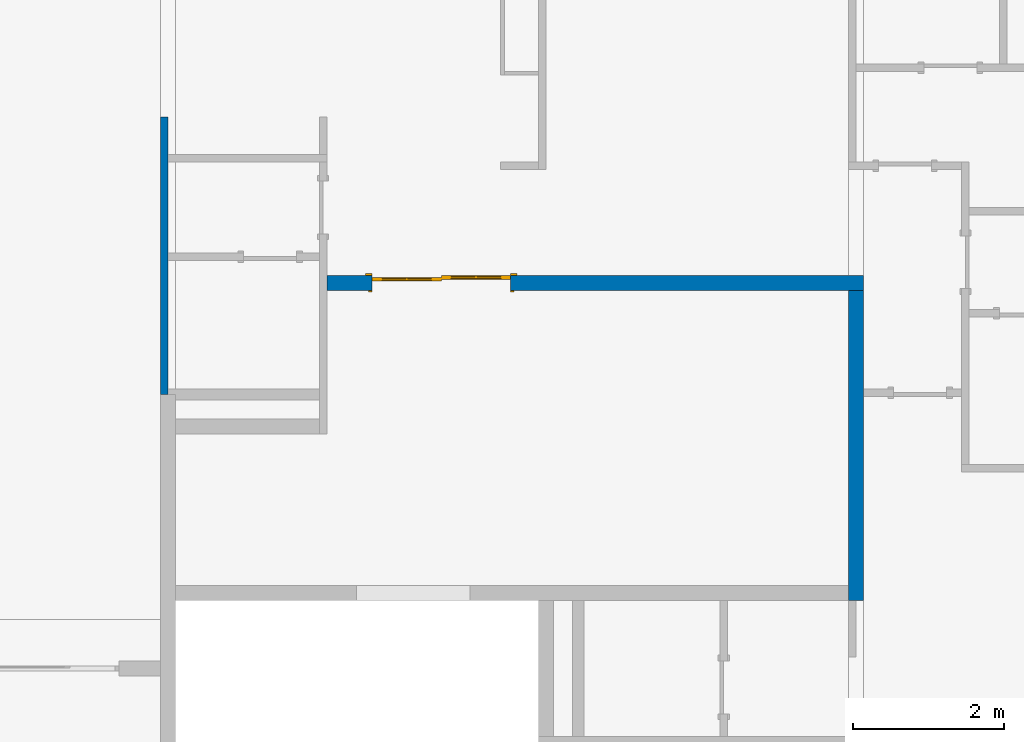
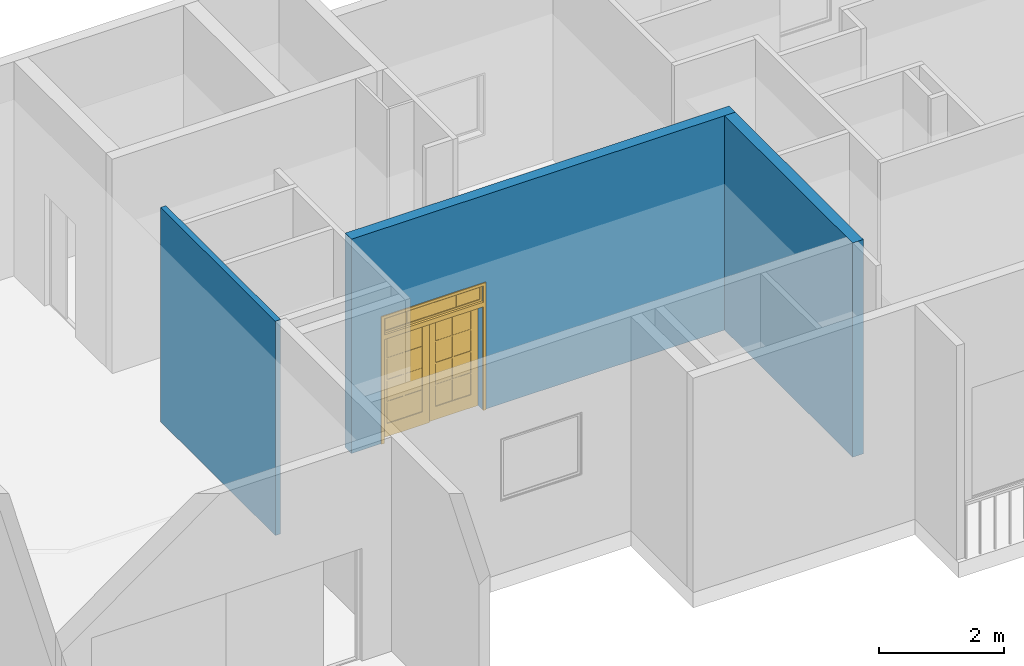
# One storey, part 2 of 7: 3 walls, 1 door, 1 opening.
"""IFC2X3 building model written with IfcOpenShell, lengths in metres."""

from ifc_helpers import new_model, entity, si_unit, converted_unit, derived_unit, direction, frame, frame_2d, origin, place, context, subcontext, project, spatial, rectangle, extrude, faceted_brep, source, transform, mapped, material, material_list, layer, layer_set, layer_usage, type_object, type_shapes, element, fill, save


model = new_model("IFC2X3")

# Units and contexts
model_context = context("Model", 3, precision=1e-05, world=origin(), true_north=direction((6.123031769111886e-17, 1.0)))
body_context = subcontext(model_context, "Body", "Model", "MODEL_VIEW")
ifc_project = project(units=[si_unit("LENGTHUNIT", "METRE"), si_unit("AREAUNIT", "SQUARE_METRE"), si_unit("VOLUMEUNIT", "CUBIC_METRE"), converted_unit("PLANEANGLEUNIT", "DEGREE", entity("IfcRatioMeasure", 0.017453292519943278), si_unit("PLANEANGLEUNIT", "RADIAN"), dimensions=[0, 0, 0, 0, 0, 0, 0]), si_unit("MASSUNIT", "GRAM", prefix="KILO"), derived_unit("MASSDENSITYUNIT", [(si_unit("MASSUNIT", "GRAM", prefix="KILO"), 1), (si_unit("LENGTHUNIT", "METRE"), -3)]), derived_unit("MOMENTOFINERTIAUNIT", [(si_unit("LENGTHUNIT", "METRE"), 4)]), si_unit("TIMEUNIT", "SECOND"), si_unit("FREQUENCYUNIT", "HERTZ"), si_unit("THERMODYNAMICTEMPERATUREUNIT", "DEGREE_CELSIUS"), derived_unit("THERMALTRANSMITTANCEUNIT", [(si_unit("MASSUNIT", "GRAM", prefix="KILO"), 1), (si_unit("THERMODYNAMICTEMPERATUREUNIT", "KELVIN"), -1), (si_unit("TIMEUNIT", "SECOND"), -3)]), derived_unit("VOLUMETRICFLOWRATEUNIT", [(si_unit("LENGTHUNIT", "METRE"), 3), (si_unit("TIMEUNIT", "SECOND"), -1)]), derived_unit("MASSFLOWRATEUNIT", [(si_unit("MASSUNIT", "GRAM", prefix="KILO"), 1), (si_unit("TIMEUNIT", "SECOND"), -1)]), derived_unit("ROTATIONALFREQUENCYUNIT", [(si_unit("TIMEUNIT", "SECOND"), -1)]), si_unit("ELECTRICCURRENTUNIT", "AMPERE"), si_unit("ELECTRICVOLTAGEUNIT", "VOLT"), si_unit("POWERUNIT", "WATT"), si_unit("FORCEUNIT", "NEWTON", prefix="KILO"), si_unit("ILLUMINANCEUNIT", "LUX"), si_unit("LUMINOUSFLUXUNIT", "LUMEN"), si_unit("LUMINOUSINTENSITYUNIT", "CANDELA"), derived_unit("USERDEFINED", [(si_unit("MASSUNIT", "GRAM", prefix="KILO"), -1), (si_unit("LENGTHUNIT", "METRE"), -2), (si_unit("TIMEUNIT", "SECOND"), 3), (si_unit("LUMINOUSFLUXUNIT", "LUMEN"), 1)]), derived_unit("SOUNDPOWERUNIT", [(si_unit("MASSUNIT", "GRAM", prefix="KILO"), 1), (si_unit("LENGTHUNIT", "METRE"), 2), (si_unit("TIMEUNIT", "SECOND"), -3)]), derived_unit("SOUNDPRESSUREUNIT", [(si_unit("MASSUNIT", "GRAM", prefix="KILO"), 1), (si_unit("LENGTHUNIT", "METRE"), -1), (si_unit("TIMEUNIT", "SECOND"), -2)]), derived_unit("LINEARVELOCITYUNIT", [(si_unit("LENGTHUNIT", "METRE"), 1), (si_unit("TIMEUNIT", "SECOND"), -1)]), si_unit("PRESSUREUNIT", "PASCAL"), derived_unit("USERDEFINED", [(si_unit("LENGTHUNIT", "METRE"), -2), (si_unit("MASSUNIT", "GRAM", prefix="KILO"), 1), (si_unit("TIMEUNIT", "SECOND"), -2)]), derived_unit("LINEARFORCEUNIT", [(si_unit("MASSUNIT", "GRAM", prefix="KILO"), 1), (si_unit("LENGTHUNIT", "METRE"), 1), (si_unit("TIMEUNIT", "SECOND"), -2), (si_unit("LENGTHUNIT", "METRE"), -1)]), derived_unit("PLANARFORCEUNIT", [(si_unit("MASSUNIT", "GRAM", prefix="KILO"), 1), (si_unit("LENGTHUNIT", "METRE"), 1), (si_unit("TIMEUNIT", "SECOND"), -2), (si_unit("LENGTHUNIT", "METRE"), -2)])], contexts=[model_context])

# Site, building, storey
site_placement = place(None, origin())
site = spatial("IfcSite", under=ifc_project, at=site_placement, Name="Default", CompositionType="ELEMENT")
building_placement = place(site_placement, origin())
building = spatial("IfcBuilding", under=site, at=building_placement, CompositionType="ELEMENT")
storey_placement = place(building_placement, frame((0.0, 0.0, 5.639999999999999)))
storey = spatial("IfcBuildingStorey", under=building, at=storey_placement, Name="F1", CompositionType="ELEMENT", Elevation=5.639999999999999)

# Wall, opening, door
ifc_material_1 = material(Name="Masonry - Concrete Block")
ifc_layer_1 = layer(ifc_material_1, 0.2)
ifc_layer_set_1 = layer_set([ifc_layer_1], Name="Basic Wall:CW 200")
ifc_layer_usage_1 = layer_usage(ifc_layer_set_1, "AXIS2", "NEGATIVE", 0.1)
wall_type_1 = type_object("IfcWallType", Name="Basic Wall:CW 200", PredefinedType="STANDARD", material=ifc_layer_set_1)
wall_1_placement = place(storey_placement, frame((15.10768321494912, -1.0973929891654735, 0.0)))
wall_1 = element("IfcWallStandardCase", 1, at=wall_1_placement, inside=storey, type_object=wall_type_1, material=ifc_layer_usage_1, Name="Basic Wall:CW 200", ObjectType="Basic Wall:CW 200", context=body_context, shape_type="SweptSolid", body=[
    extrude(rectangle(XDim=7.10000000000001, YDim=0.2, at=frame_2d((3.550000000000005, 4.85722573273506e-17), x_axis=(1.0, 0.0))), origin(), (0.0, 0.0, 1.0), 4.19),
])
opening_placement = place(wall_1_placement, frame((0.6000000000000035, -0.09999999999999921, 0.0)))
opening = element("IfcOpeningElement", 2, at=opening_placement, cuts=wall_1, Name="Double_8_lite_patio_door_5282:36x2\" x 80\" w/transom\":1", ObjectType="Opening", context=body_context, shape_type="SweptSolid", body=[
    extrude(rectangle(XDim=1.8287999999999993, YDim=2.4384000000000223, at=frame_2d((1.2192000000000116, 0.9144000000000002), x_axis=(0.0, -1.0))), frame((0.0, 0.0, 0.0), z_axis=(0.0, 1.0, 0.0), x_axis=(0.0, 0.0, 1.0)), (0.0, 0.0, 1.0), 0.2),
])
ifc_material_2 = material(Name="<Unnamed>")
ifc_material_3 = material(Name="Door - Panel")
ifc_material_4 = material(Name="Glazing - Window Glazing")
ifc_material_5 = material(Name="Finishes - Exterior - Trim")
ifc_material_6 = material(Name="Finishes - Interior - Trim")
ifc_material_list_1 = material_list([ifc_material_2, ifc_material_3, ifc_material_4, ifc_material_5, ifc_material_6])
ifc_material_list_2 = material_list([ifc_material_2, ifc_material_3, ifc_material_3, ifc_material_4, ifc_material_3, ifc_material_3, ifc_material_3, ifc_material_4, ifc_material_3, ifc_material_5, ifc_material_4, ifc_material_3, ifc_material_3, ifc_material_5, ifc_material_5, ifc_material_5, ifc_material_6])
door_style = type_object("IfcDoorStyle", Name="Double_8_lite_patio_door_5282:36x2\" x 80\" w/transom\"", ConstructionType="NOTDEFINED", OperationType="NOTDEFINED", ParameterTakesPrecedence=False, Sizeable=False, material=ifc_material_list_2)
shared_shape = source(origin(), body_context, "Body", "Brep", [
    faceted_brep([(1.8288000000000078, 0.2000000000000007, 2.0319999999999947), (1.8288000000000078, 0.0, 2.0319999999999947), (0.0, 0.0, 2.0319999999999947), (0.0, 0.2000000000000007, 2.0319999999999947), (1.8288000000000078, 0.2000000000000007, 2.120899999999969), (0.0, 0.2000000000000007, 2.120899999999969), (0.0, 0.0, 2.120899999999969), (1.8288000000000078, 0.0, 2.120899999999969)], [[[0, 1, 2, 3]], [[4, 5, 6, 7]], [[1, 0, 4, 7]], [[2, 1, 7, 6]], [[3, 2, 6, 5]], [[0, 3, 5, 4]]]),
    faceted_brep([(1.3842999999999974, 0.16667500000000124, 2.1589999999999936), (1.3588999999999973, 0.16667500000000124, 2.1589999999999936), (1.3588999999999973, 0.16667500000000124, 2.40030000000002), (1.3842999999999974, 0.16667500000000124, 2.40030000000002), (1.3842999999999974, 0.1349250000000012, 2.1589999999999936), (1.3842999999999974, 0.1349250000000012, 2.40030000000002), (1.3588999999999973, 0.1349250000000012, 2.40030000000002), (1.3588999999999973, 0.1349250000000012, 2.1589999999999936)], [[[0, 1, 2, 3]], [[4, 5, 6, 7]], [[1, 0, 4, 7]], [[2, 1, 7, 6]], [[3, 2, 6, 5]], [[0, 3, 5, 4]]]),
    faceted_brep([(0.46990000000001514, 0.16667500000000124, 2.15899999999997), (0.4445000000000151, 0.16667500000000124, 2.15899999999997), (0.4445000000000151, 0.16667500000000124, 2.4002999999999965), (0.46990000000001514, 0.16667500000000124, 2.4002999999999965), (0.46990000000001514, 0.1349250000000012, 2.15899999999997), (0.46990000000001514, 0.1349250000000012, 2.4002999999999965), (0.4445000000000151, 0.1349250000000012, 2.4002999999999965), (0.4445000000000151, 0.1349250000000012, 2.15899999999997)], [[[0, 1, 2, 3]], [[4, 5, 6, 7]], [[1, 0, 4, 7]], [[2, 1, 7, 6]], [[3, 2, 6, 5]], [[0, 3, 5, 4]]]),
    faceted_brep([(1.0159999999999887, 0.05872499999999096, 1.93040000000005), (1.7525999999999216, 0.05872499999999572, 1.93040000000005), (1.7525999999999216, 0.05872499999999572, 0.2540000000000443), (1.0160000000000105, 0.05872499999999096, 0.25400000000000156), (1.015999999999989, 0.03967499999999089, 1.93040000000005), (1.0160000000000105, 0.03967499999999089, 0.25400000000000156), (1.7525999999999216, 0.03967499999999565, 0.2540000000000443), (1.7525999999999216, 0.03967499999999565, 1.93040000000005)], [[[0, 1, 2, 3]], [[4, 5, 6, 7]], [[1, 0, 4, 7]], [[2, 1, 7, 6]], [[3, 2, 6, 5]], [[0, 3, 5, 4]]]),
    faceted_brep([(1.3842999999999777, 0.06507499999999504, 0.6794500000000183), (1.7017999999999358, 0.06507499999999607, 0.6794500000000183), (1.7017999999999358, 0.06507499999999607, 0.6540500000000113), (1.3842999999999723, 0.06507499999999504, 0.6540500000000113), (1.3842999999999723, 0.06507499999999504, 0.25400000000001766), (1.3588999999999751, 0.06507499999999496, 0.25400000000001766), (1.3588999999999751, 0.06507499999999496, 0.6540500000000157), (1.0414000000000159, 0.06507499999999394, 0.6540499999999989), (1.0414000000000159, 0.06507499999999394, 0.6794500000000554), (1.3588999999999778, 0.06507499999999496, 0.6794500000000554), (1.3588999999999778, 0.06507499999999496, 1.0795000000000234), (1.0414000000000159, 0.06507499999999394, 1.0795000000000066), (1.0414000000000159, 0.06507499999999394, 1.1049000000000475), (1.3588999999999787, 0.06507499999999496, 1.1049000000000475), (1.3588999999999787, 0.06507499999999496, 1.5049500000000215), (1.0414000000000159, 0.06507499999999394, 1.5049500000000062), (1.0414000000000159, 0.06507499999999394, 1.5303500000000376), (1.3588999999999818, 0.06507499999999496, 1.5303500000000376), (1.3588999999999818, 0.06507499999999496, 1.9304000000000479), (1.384299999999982, 0.06507499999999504, 1.9304000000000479), (1.384299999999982, 0.06507499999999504, 1.5303500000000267), (1.7017999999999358, 0.06507499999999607, 1.5303500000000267), (1.7017999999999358, 0.06507499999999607, 1.5049500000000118), (1.3842999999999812, 0.06507499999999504, 1.5049500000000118), (1.3842999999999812, 0.06507499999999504, 1.1049000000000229), (1.7017999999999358, 0.06507499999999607, 1.1049000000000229), (1.7017999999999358, 0.06507499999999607, 1.0795000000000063), (1.3842999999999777, 0.06507499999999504, 1.0795000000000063), (1.3842999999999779, 0.03332499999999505, 0.6794500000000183), (1.3842999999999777, 0.03332499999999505, 1.0795000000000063), (1.701799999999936, 0.03332499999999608, 1.0795000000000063), (1.701799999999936, 0.03332499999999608, 1.1049000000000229), (1.3842999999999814, 0.03332499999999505, 1.1049000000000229), (1.3842999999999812, 0.03332499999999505, 1.5049500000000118), (1.701799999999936, 0.03332499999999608, 1.5049500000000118), (1.701799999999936, 0.03332499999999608, 1.5303500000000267), (1.384299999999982, 0.03332499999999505, 1.5303500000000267), (1.384299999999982, 0.03332499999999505, 1.9304000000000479), (1.358899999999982, 0.03332499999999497, 1.9304000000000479), (1.358899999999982, 0.03332499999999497, 1.5303500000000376), (1.0414000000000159, 0.033324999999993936, 1.5303500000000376), (1.0414000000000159, 0.033324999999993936, 1.5049500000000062), (1.3588999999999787, 0.03332499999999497, 1.5049500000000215), (1.3588999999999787, 0.03332499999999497, 1.1049000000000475), (1.0414000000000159, 0.033324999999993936, 1.1049000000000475), (1.0414000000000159, 0.033324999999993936, 1.0795000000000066), (1.358899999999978, 0.03332499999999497, 1.0795000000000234), (1.358899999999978, 0.03332499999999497, 0.6794500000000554), (1.0414000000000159, 0.033324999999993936, 0.6794500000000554), (1.0414000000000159, 0.033324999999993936, 0.6540499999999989), (1.3588999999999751, 0.03332499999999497, 0.6540500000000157), (1.3588999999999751, 0.03332499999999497, 0.25400000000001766), (1.3842999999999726, 0.03332499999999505, 0.25400000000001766), (1.3842999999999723, 0.03332499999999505, 0.6540500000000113), (1.701799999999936, 0.03332499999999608, 0.6540500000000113), (1.701799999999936, 0.03332499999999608, 0.6794500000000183)], [[[0, 1, 2, 3, 4, 5, 6, 7, 8, 9, 10, 11, 12, 13, 14, 15, 16, 17, 18, 19, 20, 21, 22, 23, 24, 25, 26, 27]], [[28, 29, 30, 31, 32, 33, 34, 35, 36, 37, 38, 39, 40, 41, 42, 43, 44, 45, 46, 47, 48, 49, 50, 51, 52, 53, 54, 55]], [[1, 0, 28, 55]], [[2, 1, 55, 54]], [[3, 2, 54, 53]], [[4, 3, 53, 52]], [[5, 4, 52, 51]], [[6, 5, 51, 50]], [[7, 6, 50, 49]], [[8, 7, 49, 48]], [[9, 8, 48, 47]], [[10, 9, 47, 46]], [[11, 10, 46, 45]], [[12, 11, 45, 44]], [[13, 12, 44, 43]], [[14, 13, 43, 42]], [[15, 14, 42, 41]], [[16, 15, 41, 40]], [[17, 16, 40, 39]], [[18, 17, 39, 38]], [[19, 18, 38, 37]], [[20, 19, 37, 36]], [[21, 20, 36, 35]], [[22, 21, 35, 34]], [[23, 22, 34, 33]], [[24, 23, 33, 32]], [[25, 24, 32, 31]], [[26, 25, 31, 30]], [[27, 26, 30, 29]], [[0, 27, 29, 28]]]),
    faceted_brep([(0.9144000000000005, 0.07459999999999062, 2.032000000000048), (1.828800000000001, 0.07459999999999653, 2.032000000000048), (1.828800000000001, 0.07459999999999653, 0.0), (0.9144000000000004, 0.07459999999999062, 0.0), (1.0413999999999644, 0.07459999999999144, 1.9304000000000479), (1.0414000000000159, 0.07459999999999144, 0.25400000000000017), (1.701799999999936, 0.07459999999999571, 0.25400000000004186), (1.701799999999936, 0.07459999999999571, 1.9304000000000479), (0.9144000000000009, 0.023799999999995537, 2.032000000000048), (0.9144000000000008, 0.023799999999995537, 0.0), (1.828800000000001, 0.02380000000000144, 0.0), (1.828800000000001, 0.02380000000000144, 2.032000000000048), (1.0413999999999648, 0.02379999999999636, 1.9304000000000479), (1.7017999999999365, 0.023800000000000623, 1.9304000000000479), (1.7017999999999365, 0.023800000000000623, 0.25400000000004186), (1.041400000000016, 0.02379999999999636, 0.25400000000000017)], [[[0, 1, 2, 3], [4, 5, 6, 7]], [[8, 9, 10, 11], [12, 13, 14, 15]], [[1, 0, 8, 11]], [[2, 1, 11, 10]], [[3, 2, 10, 9]], [[0, 3, 9, 8]], [[5, 4, 12, 15]], [[6, 5, 15, 14]], [[7, 6, 14, 13]], [[4, 7, 13, 12]]]),
    faceted_brep([(0.44450000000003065, 0.04127499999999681, 0.6794500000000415), (0.44450000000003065, 0.04127499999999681, 1.079499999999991), (0.12700000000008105, 0.041274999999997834, 1.079499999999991), (0.12700000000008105, 0.041274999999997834, 1.104900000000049), (0.44450000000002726, 0.04127499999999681, 1.104900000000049), (0.44450000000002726, 0.04127499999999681, 1.5049499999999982), (0.12700000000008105, 0.041274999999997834, 1.5049499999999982), (0.12700000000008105, 0.041274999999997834, 1.5303500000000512), (0.4445000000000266, 0.04127499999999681, 1.5303500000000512), (0.4445000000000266, 0.04127499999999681, 1.9304000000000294), (0.46990000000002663, 0.041274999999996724, 1.9304000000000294), (0.46990000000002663, 0.041274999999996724, 1.5303500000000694), (0.7873999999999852, 0.041274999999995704, 1.5303500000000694), (0.7873999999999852, 0.041274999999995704, 1.50495000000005), (0.46990000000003, 0.041274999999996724, 1.5049500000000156), (0.46990000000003, 0.041274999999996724, 1.1049000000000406), (0.7873999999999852, 0.041274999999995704, 1.1049000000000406), (0.7873999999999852, 0.041274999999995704, 1.07950000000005), (0.4699000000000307, 0.041274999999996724, 1.079500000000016), (0.4699000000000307, 0.041274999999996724, 0.6794500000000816), (0.7873999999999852, 0.041274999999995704, 0.6794500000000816), (0.7873999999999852, 0.041274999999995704, 0.6540500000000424), (0.4699000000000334, 0.041274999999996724, 0.6540500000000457), (0.4699000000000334, 0.041274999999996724, 0.2540000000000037), (0.4445000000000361, 0.04127499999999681, 0.2540000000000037), (0.4445000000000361, 0.04127499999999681, 0.6540499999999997), (0.12700000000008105, 0.041274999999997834, 0.6540499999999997), (0.12700000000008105, 0.041274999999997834, 0.6794500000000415), (0.44450000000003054, 0.009524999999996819, 0.6794500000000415), (0.1270000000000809, 0.009524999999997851, 0.6794500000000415), (0.1270000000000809, 0.009524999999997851, 0.6540499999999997), (0.4445000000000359, 0.009524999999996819, 0.6540499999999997), (0.4445000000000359, 0.009524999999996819, 0.2540000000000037), (0.4699000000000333, 0.009524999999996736, 0.2540000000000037), (0.4699000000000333, 0.009524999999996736, 0.6540500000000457), (0.7873999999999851, 0.009524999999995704, 0.6540500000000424), (0.7873999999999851, 0.009524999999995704, 0.6794500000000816), (0.46990000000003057, 0.009524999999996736, 0.6794500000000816), (0.46990000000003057, 0.009524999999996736, 1.079500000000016), (0.7873999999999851, 0.009524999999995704, 1.07950000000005), (0.7873999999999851, 0.009524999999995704, 1.1049000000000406), (0.4699000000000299, 0.009524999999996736, 1.1049000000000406), (0.4699000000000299, 0.009524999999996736, 1.5049500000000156), (0.7873999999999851, 0.009524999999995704, 1.50495000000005), (0.7873999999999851, 0.009524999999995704, 1.5303500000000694), (0.4699000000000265, 0.009524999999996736, 1.5303500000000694), (0.4699000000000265, 0.009524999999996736, 1.9304000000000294), (0.4445000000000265, 0.009524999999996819, 1.9304000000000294), (0.4445000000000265, 0.009524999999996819, 1.5303500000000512), (0.1270000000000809, 0.009524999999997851, 1.5303500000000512), (0.1270000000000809, 0.009524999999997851, 1.5049499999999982), (0.44450000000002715, 0.009524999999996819, 1.5049499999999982), (0.44450000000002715, 0.009524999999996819, 1.104900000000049), (0.1270000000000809, 0.009524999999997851, 1.104900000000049), (0.1270000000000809, 0.009524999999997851, 1.079499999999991), (0.44450000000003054, 0.009524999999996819, 1.079499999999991)], [[[0, 1, 2, 3, 4, 5, 6, 7, 8, 9, 10, 11, 12, 13, 14, 15, 16, 17, 18, 19, 20, 21, 22, 23, 24, 25, 26, 27]], [[28, 29, 30, 31, 32, 33, 34, 35, 36, 37, 38, 39, 40, 41, 42, 43, 44, 45, 46, 47, 48, 49, 50, 51, 52, 53, 54, 55]], [[1, 0, 28, 55]], [[2, 1, 55, 54]], [[3, 2, 54, 53]], [[4, 3, 53, 52]], [[5, 4, 52, 51]], [[6, 5, 51, 50]], [[7, 6, 50, 49]], [[8, 7, 49, 48]], [[9, 8, 48, 47]], [[10, 9, 47, 46]], [[11, 10, 46, 45]], [[12, 11, 45, 44]], [[13, 12, 44, 43]], [[14, 13, 43, 42]], [[15, 14, 42, 41]], [[16, 15, 41, 40]], [[17, 16, 40, 39]], [[18, 17, 39, 38]], [[19, 18, 38, 37]], [[20, 19, 37, 36]], [[21, 20, 36, 35]], [[22, 21, 35, 34]], [[23, 22, 34, 33]], [[24, 23, 33, 32]], [[25, 24, 32, 31]], [[26, 25, 31, 30]], [[27, 26, 30, 29]], [[0, 27, 29, 28]]]),
    faceted_brep([(0.8128000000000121, 0.034924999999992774, 1.9304000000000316), (0.8127999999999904, 0.034924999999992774, 0.25400000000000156), (0.0762000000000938, 0.034924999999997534, 0.2540000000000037), (0.0762000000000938, 0.034924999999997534, 1.9304000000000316), (0.812800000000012, 0.015874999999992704, 1.9304000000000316), (0.07620000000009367, 0.015874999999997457, 1.9304000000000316), (0.0762000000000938, 0.015874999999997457, 0.2540000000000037), (0.8127999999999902, 0.015874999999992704, 0.25400000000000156)], [[[0, 1, 2, 3]], [[4, 5, 6, 7]], [[1, 0, 4, 7]], [[2, 1, 7, 6]], [[3, 2, 6, 5]], [[0, 3, 5, 4]]]),
    faceted_brep([(0.9143999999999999, 0.050799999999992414, 2.032000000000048), (0.9144000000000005, 0.050799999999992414, 0.0), (0.0, 0.05079999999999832, 0.0), (0.0, 0.05079999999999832, 2.032000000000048), (0.7874000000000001, 0.05079999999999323, 1.9304000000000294), (0.1270000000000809, 0.05079999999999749, 1.9304000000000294), (0.1270000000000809, 0.05079999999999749, 0.2540000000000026), (0.7873999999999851, 0.05079999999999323, 0.25400000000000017), (0.9143999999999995, 0.0, 2.032000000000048), (0.0, 0.0, 2.032000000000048), (0.0, 0.0, 0.0), (0.9144000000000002, 0.0, 0.0), (0.7873999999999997, 0.0, 1.9304000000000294), (0.7873999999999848, 0.0, 0.25400000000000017), (0.1270000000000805, 0.0, 0.2540000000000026), (0.1270000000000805, 0.0, 1.9304000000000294)], [[[0, 1, 2, 3], [4, 5, 6, 7]], [[8, 9, 10, 11], [12, 13, 14, 15]], [[1, 0, 8, 11]], [[2, 1, 11, 10]], [[3, 2, 10, 9]], [[0, 3, 9, 8]], [[5, 4, 12, 15]], [[6, 5, 15, 14]], [[7, 6, 14, 13]], [[4, 7, 13, 12]]]),
    faceted_brep([(-0.08889999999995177, 0.0, 2.438400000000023), (-0.0888999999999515, 0.0, 2.5781000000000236), (-0.11429999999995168, 0.0, 2.603500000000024), (-0.11429999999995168, 0.0, 2.6162000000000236), (1.943100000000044, 0.0, 2.6162000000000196), (1.943100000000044, 0.0, 2.60350000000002), (1.9177000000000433, 0.0, 2.5781000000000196), (1.9177000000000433, 0.0, 2.438400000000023), (1.9177000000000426, -0.025400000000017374, 2.4384000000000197), (-0.0888999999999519, -0.02540000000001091, 2.438400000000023), (-0.08889999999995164, -0.02540000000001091, 2.5781000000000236), (-0.11429999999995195, -0.05080000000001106, 2.603500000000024), (-0.11429999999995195, -0.05080000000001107, 2.6162000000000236), (1.9431000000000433, -0.05080000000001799, 2.6162000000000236), (1.9177000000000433, -0.025400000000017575, 2.5781000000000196), (1.9431000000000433, -0.05080000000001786, 2.60350000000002)], [[[0, 1, 2, 3, 4, 5, 6, 7]], [[0, 7, 8, 9]], [[1, 0, 9, 10]], [[2, 1, 10, 11]], [[3, 2, 11, 12]], [[4, 3, 12, 13]], [[10, 9, 8, 14]], [[11, 10, 14, 15]], [[12, 11, 15, 13]], [[14, 8, 7, 6]], [[15, 14, 6, 5]], [[13, 15, 5, 4]]]),
    faceted_brep([(1.7907000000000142, 0.14127500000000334, 2.4003000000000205), (0.03276657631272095, 0.14127500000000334, 2.4003000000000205), (0.03276657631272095, 0.14127500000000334, 2.1589999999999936), (1.7907000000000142, 0.14127500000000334, 2.1589999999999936), (1.7907000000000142, 0.1603250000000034, 2.4003000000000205), (1.7907000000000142, 0.1603250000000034, 2.1589999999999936), (0.03276657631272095, 0.1603250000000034, 2.1589999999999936), (0.03276657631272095, 0.1603250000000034, 2.4003000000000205)], [[[0, 1, 2, 3]], [[4, 5, 6, 7]], [[1, 0, 4, 7]], [[2, 1, 7, 6]], [[3, 2, 6, 5]], [[0, 3, 5, 4]]]),
    faceted_brep([(1.8341334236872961, 0.1254000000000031, 2.4383999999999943), (0.0, 0.1254000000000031, 2.4383999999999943), (0.0, 0.1254000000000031, 2.1208999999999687), (1.8341334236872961, 0.1254000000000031, 2.1208999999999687), (1.7907000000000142, 0.1254000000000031, 2.400299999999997), (1.7907000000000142, 0.1254000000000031, 2.158999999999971), (0.03810000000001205, 0.1254000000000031, 2.158999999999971), (0.038100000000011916, 0.1254000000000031, 2.400299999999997), (1.8341334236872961, 0.17619999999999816, 2.4383999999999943), (1.8341334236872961, 0.17619999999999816, 2.1208999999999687), (0.0, 0.17619999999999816, 2.1208999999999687), (0.0, 0.17619999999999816, 2.4383999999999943), (1.7907000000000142, 0.17619999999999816, 2.400299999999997), (0.038100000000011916, 0.17619999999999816, 2.400299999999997), (0.03810000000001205, 0.17619999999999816, 2.158999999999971), (1.7907000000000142, 0.17619999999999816, 2.158999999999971)], [[[0, 1, 2, 3], [4, 5, 6, 7]], [[8, 9, 10, 11], [12, 13, 14, 15]], [[1, 0, 8, 11]], [[2, 1, 11, 10]], [[3, 2, 10, 9]], [[0, 3, 9, 8]], [[5, 4, 12, 15]], [[6, 5, 15, 14]], [[7, 6, 14, 13]], [[4, 7, 13, 12]]]),
    faceted_brep([(0.9270999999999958, 0.16667500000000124, 2.158999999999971), (0.9016999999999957, 0.16667500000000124, 2.158999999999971), (0.9016999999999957, 0.16667500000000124, 2.4002999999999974), (0.9270999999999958, 0.16667500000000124, 2.4002999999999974), (0.9270999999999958, 0.1349250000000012, 2.158999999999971), (0.9270999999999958, 0.1349250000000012, 2.4002999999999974), (0.9016999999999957, 0.1349250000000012, 2.4002999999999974), (0.9016999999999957, 0.1349250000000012, 2.158999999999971)], [[[0, 1, 2, 3]], [[4, 5, 6, 7]], [[1, 0, 4, 7]], [[2, 1, 7, 6]], [[3, 2, 6, 5]], [[0, 3, 5, 4]]]),
    faceted_brep([(1.828800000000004, 0.0, 2.1208999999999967), (1.828800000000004, -0.02539999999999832, 2.1208999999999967), (1.828800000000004, -0.02539999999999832, 2.0320000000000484), (1.828800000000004, 0.0, 2.0320000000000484), (0.0, 0.0, 2.1209000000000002), (0.0, 0.0, 2.0320000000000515), (0.0, -0.02539999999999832, 2.0320000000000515), (0.0, -0.02539999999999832, 2.1209000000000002)], [[[0, 1, 2, 3]], [[4, 5, 6, 7]], [[1, 0, 4, 7]], [[2, 1, 7, 6]], [[3, 2, 6, 5]], [[0, 3, 5, 4]]]),
    faceted_brep([(1.8288000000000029, 0.0, 0.0), (1.9177000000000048, 0.0, 0.0), (1.9177000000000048, -0.025399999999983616, 0.0), (1.8288000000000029, -0.025399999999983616, 0.0), (1.8288000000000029, 0.0, 2.4384000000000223), (1.9177000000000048, 0.0, 2.4384000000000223), (1.9177000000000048, -0.025399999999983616, 2.4384000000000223), (1.8288000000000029, -0.025399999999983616, 2.4384000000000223)], [[[0, 1, 2, 3]], [[4, 5, 1, 0]], [[5, 6, 2, 1]], [[6, 7, 3, 2]], [[7, 4, 0, 3]], [[4, 7, 6, 5]]]),
    faceted_brep([(-0.08889999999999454, 0.0, 0.0), (0.0, 0.0, 0.0), (0.0, -0.025399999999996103, 0.0), (-0.08889999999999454, -0.025399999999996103, 0.0), (-0.08889999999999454, 0.0, 2.4384000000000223), (0.0, 0.0, 2.4384000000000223), (0.0, -0.025399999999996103, 2.4384000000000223), (-0.08889999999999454, -0.025399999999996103, 2.4384000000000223)], [[[0, 1, 2, 3]], [[4, 5, 1, 0]], [[5, 6, 2, 1]], [[6, 7, 3, 2]], [[7, 4, 0, 3]], [[4, 7, 6, 5]]]),
    faceted_brep([(0.0, 0.2190500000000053, 0.0), (0.0, 0.20000000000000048, 0.0), (-0.050799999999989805, 0.20000000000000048, 0.0), (-0.050799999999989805, 0.2190500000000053, 0.0), (0.0, 0.2190500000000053, 2.4383999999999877), (0.0, 0.20000000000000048, 2.4384000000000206), (0.0, 0.20000000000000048, 2.1208999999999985), (0.0, 0.2190500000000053, 2.1208999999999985), (0.0, 0.20000000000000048, 2.0320000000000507), (1.8288000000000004, 0.20000000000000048, 2.0320000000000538), (1.8288000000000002, 0.19999999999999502, 0.0), (1.8796000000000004, 0.19999999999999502, 0.0), (1.879599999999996, 0.19999999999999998, 2.4892000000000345), (-0.050799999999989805, 0.19999999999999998, 2.4892000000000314), (1.8288000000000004, 0.20000000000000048, 2.4384000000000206), (1.8288000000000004, 0.20000000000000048, 2.120900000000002), (-0.050799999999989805, 0.21905000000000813, 2.4892000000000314), (1.879599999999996, 0.21905000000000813, 2.4892000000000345), (1.879600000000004, 0.21905000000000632, 0.0), (1.8288000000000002, 0.21905000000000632, 0.0), (1.8288000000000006, 0.21905000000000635, 2.0320000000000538), (0.0, 0.2190500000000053, 2.0320000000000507), (1.8288000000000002, 0.21905000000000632, 2.120900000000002), (1.8288000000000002, 0.21905000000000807, 2.4383999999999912)], [[[0, 1, 2, 3]], [[4, 5, 6, 7]], [[2, 1, 8, 9, 10, 11, 12, 13], [14, 15, 6, 5]], [[3, 2, 13, 16]], [[0, 3, 16, 17, 18, 19, 20, 21], [4, 7, 22, 23]], [[18, 17, 12, 11]], [[19, 18, 11, 10]], [[14, 23, 22, 15]], [[5, 4, 23, 14]], [[16, 13, 12, 17]], [[9, 8, 21, 20]], [[6, 15, 22, 7]], [[19, 10, 9, 20]], [[1, 0, 21, 8]]]),
])
type_shapes(door_style, [shared_shape])
door_placement = place(opening_placement, frame((1.8287999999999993, 0.1999999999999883, 0.0), z_axis=(0.0, 0.0, 1.0), x_axis=(-1.0, 0.0, 0.0)))
door = element("IfcDoor", 3, at=door_placement, inside=storey, type_object=door_style, material=ifc_material_list_1, Name="Double_8_lite_patio_door_5282:36x2\" x 80\" w/transom\"", ObjectType="Double_8_lite_patio_door_5282:36x2\" x 80\" w/transom\"", OverallHeight=2.4384000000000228, OverallWidth=1.8288000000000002, context=body_context, shape_type="MappedRepresentation", body=[
    mapped(shared_shape, transform((0.0, 0.0, 0.0), scale=1.0)),
])
fill(opening, door)

# Walls
ifc_layer_usage_2 = layer_usage(ifc_layer_set_1, "AXIS2", "NEGATIVE", 0.1)
wall_2_placement = place(storey_placement, frame((22.10768321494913, -1.197392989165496, 0.0), z_axis=(0.0, 0.0, 1.0), x_axis=(0.0, -1.0, 0.0)))
element("IfcWallStandardCase", 4, at=wall_2_placement, inside=storey, type_object=wall_type_1, material=ifc_layer_usage_2, Name="Basic Wall:CW 200", ObjectType="Basic Wall:CW 200", context=body_context, shape_type="SweptSolid", body=[
    extrude(rectangle(XDim=4.102899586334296, YDim=0.19999999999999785, at=frame_2d((2.051449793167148, 1.1102230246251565e-16), x_axis=(-1.0, 0.0))), origin(), (0.0, 0.0, 1.0), 4.19),
])
ifc_layer_2 = layer(ifc_material_1, 0.1)
ifc_layer_set_2 = layer_set([ifc_layer_2], Name="Basic Wall:CW 100")
ifc_layer_usage_3 = layer_usage(ifc_layer_set_2, "AXIS2", "NEGATIVE", 0.05)
wall_type_2 = type_object("IfcWallType", Name="Basic Wall:CW 100", PredefinedType="STANDARD", material=ifc_layer_set_2)
wall_3_placement = place(storey_placement, frame((12.957683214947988, -2.5723929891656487, 0.0), z_axis=(0.0, 0.0, 1.0), x_axis=(0.0, 1.0, 0.0)))
element("IfcWallStandardCase", 5, at=wall_3_placement, inside=storey, type_object=wall_type_2, material=ifc_layer_usage_3, Name="Basic Wall:CW 100", ObjectType="Basic Wall:CW 100", context=body_context, shape_type="SweptSolid", body=[
    extrude(rectangle(XDim=3.6750000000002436, YDim=0.09999999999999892, at=frame_2d((1.8375000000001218, 1.0755285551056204e-16), x_axis=(-1.0, 0.0))), origin(), (0.0, 0.0, 1.0), 4.19),
])

save(model, "model.ifc")
